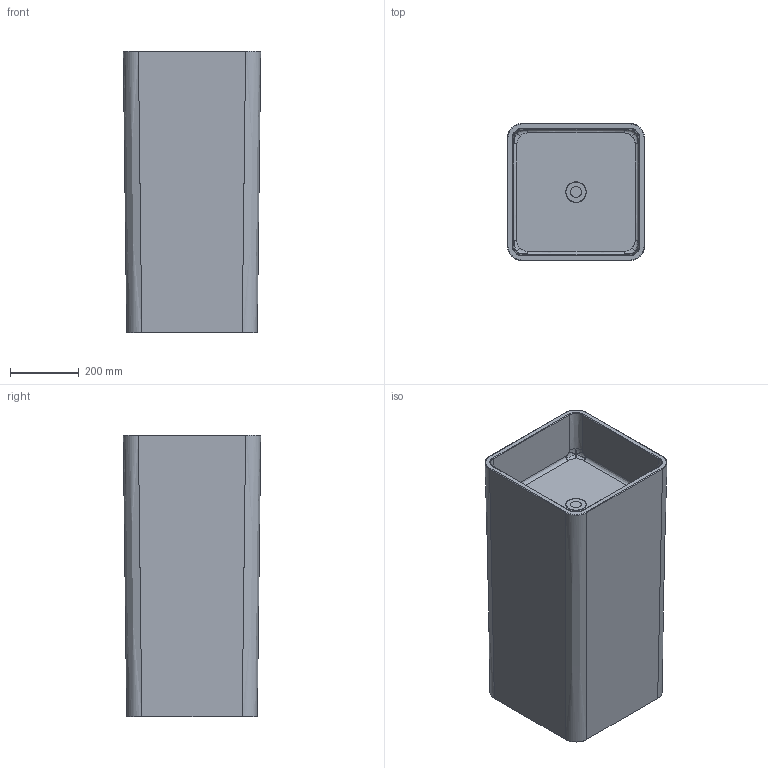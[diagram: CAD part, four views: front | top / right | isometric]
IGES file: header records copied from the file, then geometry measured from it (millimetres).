
Global section: file name: \\Archi-NAS\Comune\X GIOVANNI\SCHEDE PRODOTTO\LAVABI\FREESTANDING\TUBE TOWER\3D\TUBE TOWER.igs; native system: Rhinoceros ( Jan 17 2018 ); preprocessor: Trout Lake IGES 012 Jan 17 2018; date: 230619.100409; units: millimetre
Bounding box: 399.95 x 399.95 x 820 mm (x, y, z)
Surface area: 1727422.8 mm2 (no closed solid volume)
Topology: 0 solids, 0 shells, 92 faces, 502 edges, 499 vertices
Faces by surface type: bspline 92
